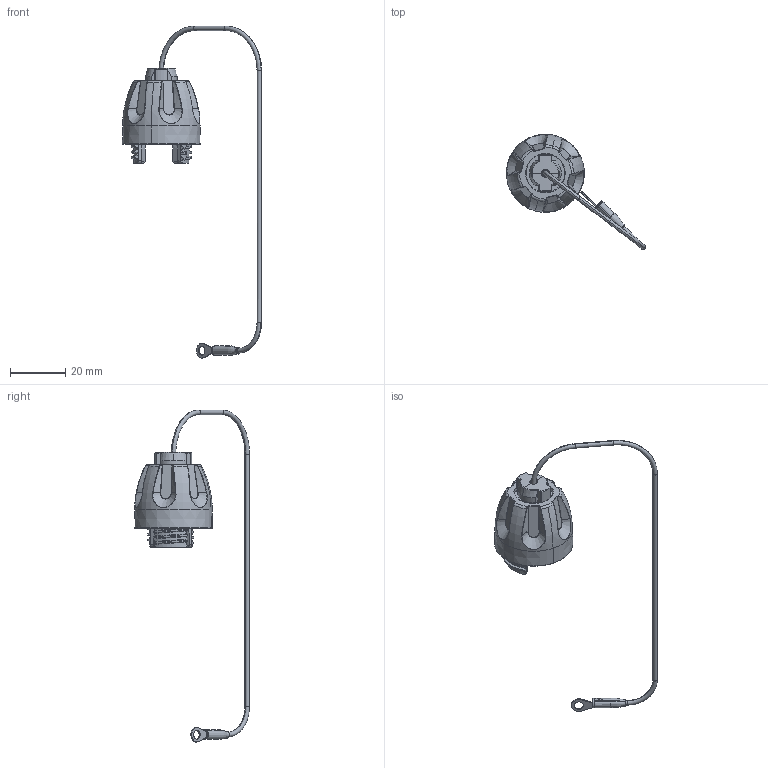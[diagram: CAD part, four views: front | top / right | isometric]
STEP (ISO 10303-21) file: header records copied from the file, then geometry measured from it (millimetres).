
FILE_DESCRIPTION (( 'STEP AP214' ), '1' );
FILE_NAME ('QMINI90-DCHPP.STEP', '2025-05-22T23:03:10', ( '' ), ( '' ), 'SwSTEP 2.0', 'SolidWorks 2024', '' );
FILE_SCHEMA (( 'AUTOMOTIVE_DESIGN' ));
Length unit declared in the file: inch
Products named in the file (1): QMINI90-DCHPP
Bounding box: 50.44 x 41.69 x 120.33 mm (x, y, z)
Volume: 10643.5 mm3; surface area: 7290.5 mm2
Topology: 3 solids, 3 shells, 373 faces, 915 edges, 554 vertices
Faces by surface type: bspline 144, cylinder 87, plane 45, torus 41, cone 36, sphere 20
Entity records: 17518 total; most frequent: CARTESIAN_POINT 9868, ORIENTED_EDGE 1830, DIRECTION 1320, EDGE_CURVE 915, AXIS2_PLACEMENT_3D 570, VERTEX_POINT 554, EDGE_LOOP 385, ADVANCED_FACE 373
